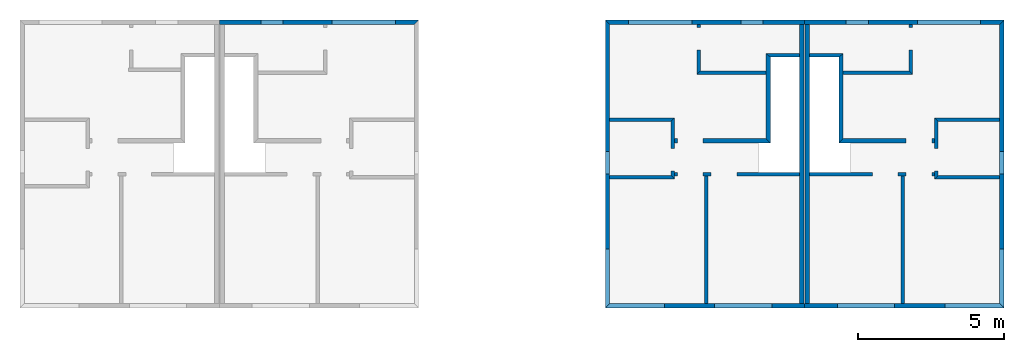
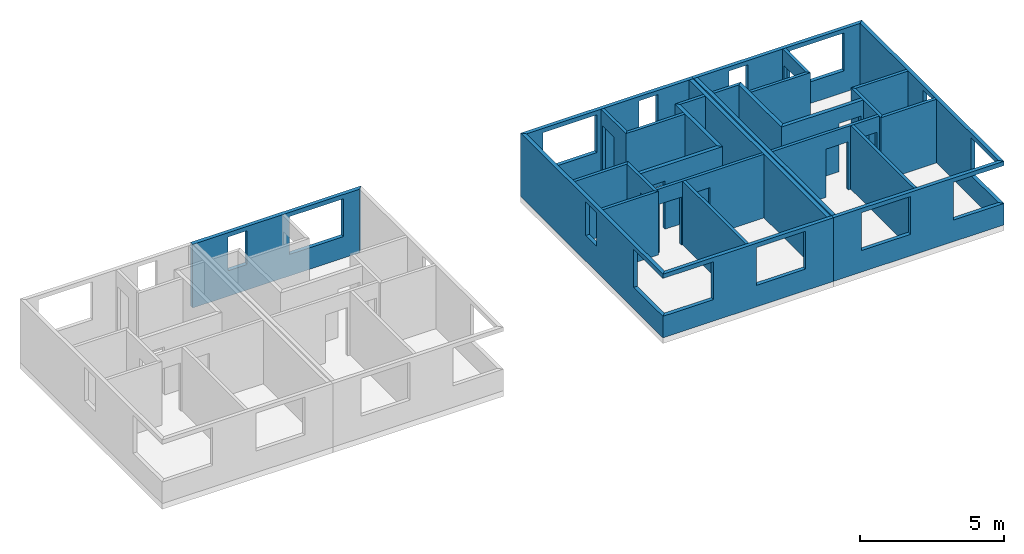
# One storey, part 2 of 2: 29 walls, 24 openings.
"""IFC2X3 building model written with IfcOpenShell, lengths in metres."""

import ifcopenshell
import ifcopenshell.guid

model = None  # the IFC model being written
_history = None  # IfcOwnerHistory: only IFC2X3 demands one
_inside = {}  # id of a spatial element -> (the spatial element, [elements in it])
_under = {}  # id of a project, library or spatial element -> (it, [spatial elements below it])
_declared = {}  # id of a project -> (the project, [libraries it declares])
_typed = {}  # id of a type object -> (the type object, [elements of that type])
_made_of = {}  # id of a material, layer set ... -> (it, [elements and type objects made of it])


def new_model(schema):
    """Start an empty IFC model of exactly this schema.

    Asked for "IFC4X3", IfcOpenShell would pick the latest addendum, in which some entities
    have other attributes; the version numbers below select the first issue.
    IFC2X3 requires an IfcOwnerHistory on every rooted entity: one is made here for all.
    """
    global model, _history
    if schema == "IFC4X3":
        model = ifcopenshell.file(schema_version=(4, 3, 0, 0))
    else:
        model = ifcopenshell.file(schema=schema)
    _inside.clear()
    _under.clear()
    _declared.clear()
    _typed.clear()
    _made_of.clear()
    _history = None
    if model.schema == "IFC2X3":
        org = make("IfcOrganization", Name="unknown")
        user = make(
            "IfcPersonAndOrganization",
            ThePerson=make("IfcPerson", FamilyName="unknown"),
            TheOrganization=org,
        )
        app = make(
            "IfcApplication",
            ApplicationDeveloper=org,
            Version="unknown",
            ApplicationFullName="unknown",
            ApplicationIdentifier="unknown",
        )
        _history = make(
            "IfcOwnerHistory",
            OwningUser=user,
            OwningApplication=app,
            ChangeAction="ADDED",
            CreationDate=0,
        )
    return model


def make(cls, **values):
    """One entity of the class cls with the attributes given. An attribute that is None is left unset."""
    return model.create_entity(
        cls, **{name: value for name, value in values.items() if value is not None}
    )


def entity(cls, *values):
    """Any entity or typed value of the class cls, its attributes in the order of the schema. None: left unset."""
    e = model.create_entity(cls)
    for i, value in enumerate(values):
        if value is not None:
            e[i] = value
    return e


def rooted(cls, **values):
    """An entity with a GlobalId (a new one), such as an element, a storey or a relation."""
    return make(cls, GlobalId=ifcopenshell.guid.new(), OwnerHistory=_history, **values)


def si_unit(unit_type, name, prefix=None):
    """IfcSIUnit, for example si_unit("LENGTHUNIT", "METRE", prefix="MILLI")."""
    return make("IfcSIUnit", UnitType=unit_type, Prefix=prefix, Name=name)


def converted_unit(unit_type, name, factor, base, dimensions=None, offset=None):
    """IfcConversionBasedUnit, such as the inch: factor (a typed value) times the base unit."""
    return make(
        "IfcConversionBasedUnit"
        if offset is None
        else "IfcConversionBasedUnitWithOffset",
        ConversionOffset=offset,
        Dimensions=None
        if dimensions is None
        else entity("IfcDimensionalExponents", *dimensions),
        UnitType=unit_type,
        Name=name,
        ConversionFactor=make(
            "IfcMeasureWithUnit", ValueComponent=factor, UnitComponent=base
        ),
    )


def money_unit(currency):
    """IfcMonetaryUnit."""
    return make("IfcMonetaryUnit", Currency=currency)


def assignment(units):
    """IfcUnitAssignment: the units of a project."""
    return None if units is None else make("IfcUnitAssignment", Units=units)


def point(xyz):
    """IfcCartesianPoint."""
    return None if xyz is None else make("IfcCartesianPoint", Coordinates=xyz)


def direction(xyz):
    """IfcDirection."""
    return None if xyz is None else make("IfcDirection", DirectionRatios=xyz)


def frame(location, z_axis=None, x_axis=None):
    """IfcAxis2Placement3D, a coordinate frame: its origin and axes. An axis left out is left unset."""
    return make(
        "IfcAxis2Placement3D",
        Location=point(location),
        Axis=direction(z_axis),
        RefDirection=direction(x_axis),
    )


def frame_2d(location, x_axis=None):
    """IfcAxis2Placement2D, a coordinate frame in the plane: its origin and x axis."""
    return make(
        "IfcAxis2Placement2D", Location=point(location), RefDirection=direction(x_axis)
    )


def origin_with_axes():
    """The frame at (0, 0, 0) with the z axis (0, 0, 1) and the x axis (1, 0, 0) written out."""
    return frame((0.0, 0.0, 0.0), z_axis=(0.0, 0.0, 1.0), x_axis=(1.0, 0.0, 0.0))


def origin_2d_with_axis():
    """The frame at (0, 0) in the plane with the x axis (1, 0) written out."""
    return frame_2d((0.0, 0.0), x_axis=(1.0, 0.0))


def place(relative_to, where):
    """IfcLocalPlacement: puts the frame where relative to a parent placement (None: the world)."""
    return make(
        "IfcLocalPlacement", PlacementRelTo=relative_to, RelativePlacement=where
    )


def context(
    kind, dimensions, precision=None, world=None, true_north=None, identifier=None
):
    """IfcGeometricRepresentationContext, for example the 3D "Model" context."""
    return make(
        "IfcGeometricRepresentationContext",
        ContextIdentifier=identifier,
        ContextType=kind,
        CoordinateSpaceDimension=dimensions,
        Precision=precision,
        WorldCoordinateSystem=world,
        TrueNorth=true_north,
    )


def subcontext(parent, identifier, kind, view, scale=None):
    """IfcGeometricRepresentationSubContext, for example "Body" below "Model"."""
    return make(
        "IfcGeometricRepresentationSubContext",
        ContextIdentifier=identifier,
        ContextType=kind,
        ParentContext=parent,
        TargetScale=scale,
        TargetView=view,
    )


def project(units=None, contexts=None):
    """IfcProject with its units and contexts."""
    return rooted(
        "IfcProject",
        Name="project",
        RepresentationContexts=contexts,
        UnitsInContext=assignment(units),
    )


def spatial(cls, under=None, at=None, **own):
    """A site, building, storey or space (cls), placed at a placement, below another one or the project."""
    s = rooted(cls, ObjectPlacement=at, **own)
    if under is not None:
        _under.setdefault(under.id(), (under, []))[1].append(s)
    return s


def polyline(points):
    """IfcPolyline through the points."""
    return make("IfcPolyline", Points=[point(p) for p in points])


def profile(cls, at=None, kind="AREA", **sizes):
    """A parametric profile (cls). Its sizes go by their IFC names, for example OverallWidth=200.0."""
    return make(cls, ProfileType=kind, Position=at, **sizes)


def rectangle(**sizes):
    """IfcRectangleProfileDef."""
    return profile("IfcRectangleProfileDef", **sizes)


def outline(outer, holes=None, kind="AREA"):
    """IfcArbitraryClosedProfileDef: a profile drawn as a closed curve; with holes, ...WithVoids."""
    if holes is None:
        return make("IfcArbitraryClosedProfileDef", ProfileType=kind, OuterCurve=outer)
    return make(
        "IfcArbitraryProfileDefWithVoids",
        ProfileType=kind,
        OuterCurve=outer,
        InnerCurves=holes,
    )


def extrude(swept, where, along, depth):
    """IfcExtrudedAreaSolid: the profile swept, set in the frame where, extruded along a direction by depth."""
    return make(
        "IfcExtrudedAreaSolid",
        SweptArea=swept,
        Position=where,
        ExtrudedDirection=direction(along),
        Depth=depth,
    )


def shape(context_of_items, identifier, shape_type, items):
    """IfcShapeRepresentation: the items that make up one representation, for example the "Body"."""
    return make(
        "IfcShapeRepresentation",
        ContextOfItems=context_of_items,
        RepresentationIdentifier=identifier,
        RepresentationType=shape_type,
        Items=items,
    )


def material(Name=None, Category=None):
    """IfcMaterial."""
    return make("IfcMaterial", Name=Name, Category=Category)


def layer(
    of_material, thickness, ventilated=None, Name=None, Category=None, Priority=None
):
    """IfcMaterialLayer: one layer of a wall or slab, of a material (None: an air gap)."""
    return make(
        "IfcMaterialLayer",
        Material=of_material,
        LayerThickness=thickness,
        IsVentilated=ventilated,
        Name=Name,
        Category=Category,
        Priority=Priority,
    )


def layer_set(layers, Name=None):
    """IfcMaterialLayerSet."""
    return make("IfcMaterialLayerSet", MaterialLayers=layers, LayerSetName=Name)


def layer_usage(for_layer_set, set_direction, sense, offset, extent=None):
    """IfcMaterialLayerSetUsage: how a layer set lies in its element."""
    return make(
        "IfcMaterialLayerSetUsage",
        ForLayerSet=for_layer_set,
        LayerSetDirection=set_direction,
        DirectionSense=sense,
        OffsetFromReferenceLine=offset,
        ReferenceExtent=extent,
    )


def made_of(thing, what):
    """Note that an element or type object is made of a material, layer set ...; save() writes the relation."""
    if what is not None:
        _made_of.setdefault(what.id(), (what, []))[1].append(thing)
    return thing


def type_object(cls, material=None, **own):
    """A type object (cls), such as IfcWallType, which elements share."""
    return made_of(rooted(cls, **own), material)


def element(
    cls,
    number,
    at=None,
    inside=None,
    cuts=None,
    type_object=None,
    material=None,
    context=None,
    identifier="Body",
    shape_type=None,
    held_by="IfcProductDefinitionShape",
    body=None,
    shapes=None,
    **own,
):
    """One element of the class cls, such as IfcWall. Its Tag is "e" and its number.

    at: its placement. inside: the storey or other place that contains it. cuts: it is an
    opening in that element (IfcRelVoidsElement). A single representation is given by context,
    identifier, shape_type and body (its items); several are given by shapes. held_by: the class
    of the entity that holds the representations. save() writes the other relations.
    """
    e = rooted(cls, Tag="e%d" % number, ObjectPlacement=at, **own)
    if body is not None:
        shapes = [shape(context, identifier, shape_type, body)]
    if shapes is not None:
        e.Representation = make(held_by, Representations=shapes)
    if inside is not None:
        _inside.setdefault(inside.id(), (inside, []))[1].append(e)
    if cuts is not None:
        rooted(
            "IfcRelVoidsElement", RelatingBuildingElement=cuts, RelatedOpeningElement=e
        )
    if type_object is not None:
        _typed.setdefault(type_object.id(), (type_object, []))[1].append(e)
    return made_of(e, material)


def aggregate(whole, parts):
    """IfcRelAggregates: a whole, such as a stair, and the parts it consists of."""
    return rooted("IfcRelAggregates", RelatingObject=whole, RelatedObjects=parts)


def save(model, path):
    """Write the relations noted so far, then the file.

    IfcRelAggregates (storeys below a building ...), IfcRelContainedInSpatialStructure (elements
    in a storey), IfcRelDefinesByType, IfcRelAssociatesMaterial and IfcRelDeclares: one each for
    every whole, place, type object, material and project.
    """
    for whole, parts in _under.values():
        aggregate(whole, parts)
    for where, things in _inside.values():
        rooted(
            "IfcRelContainedInSpatialStructure",
            RelatedElements=things,
            RelatingStructure=where,
        )
    for kind, things in _typed.values():
        rooted("IfcRelDefinesByType", RelatedObjects=things, RelatingType=kind)
    for what, things in _made_of.values():
        rooted("IfcRelAssociatesMaterial", RelatedObjects=things, RelatingMaterial=what)
    for by, libraries in _declared.values():
        rooted("IfcRelDeclares", RelatingContext=by, RelatedDefinitions=libraries)
    model.write(path)


model = new_model("IFC2X3")

# Units and contexts
model_context = context("Model", 3, precision=1e-05, world=origin_with_axes(), true_north=direction((0.0, 1.0)))
body_context = subcontext(model_context, "Body", "Model", "MODEL_VIEW")
ifc_project = project(units=[si_unit("LENGTHUNIT", "METRE"), si_unit("AREAUNIT", "SQUARE_METRE"), si_unit("VOLUMEUNIT", "CUBIC_METRE"), converted_unit("PLANEANGLEUNIT", "DEGREE", entity("IfcPlaneAngleMeasure", 0.0174532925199), si_unit("PLANEANGLEUNIT", "RADIAN"), dimensions=[0, 0, 0, 0, 0, 0, 0]), si_unit("SOLIDANGLEUNIT", "STERADIAN"), money_unit("EUR"), si_unit("TIMEUNIT", "SECOND"), si_unit("MASSUNIT", "GRAM"), si_unit("THERMODYNAMICTEMPERATUREUNIT", "DEGREE_CELSIUS"), si_unit("LUMINOUSINTENSITYUNIT", "LUMEN")], contexts=[model_context])

# Site, building, storey
site_placement = place(None, origin_with_axes())
site = spatial("IfcSite", under=ifc_project, at=site_placement, Name="Gelände", CompositionType="ELEMENT")
building_placement = place(site_placement, origin_with_axes())
building = spatial("IfcBuilding", under=site, at=building_placement, Name="Gebäude", CompositionType="ELEMENT")
storey_placement = place(building_placement, frame((0.0, 0.0, 2.75), z_axis=(0.0, 0.0, 1.0), x_axis=(1.0, 0.0, 0.0)))
storey = spatial("IfcBuildingStorey", under=building, at=storey_placement, Name="Dachgeschoss", CompositionType="ELEMENT", Elevation=2.75)

# Wall, openings
ifc_material = material(Name="MW, Backstein")
ifc_layer_1 = layer(ifc_material, 0.15, ventilated="UNKNOWN")
ifc_layer_set_1 = layer_set([ifc_layer_1], Name="MW, Backstein 0.15")
ifc_layer_usage_1 = layer_usage(ifc_layer_set_1, "AXIS2", "POSITIVE", 0.0)
wall_type_1 = type_object("IfcWallType", Name="MW, Backstein 150", PredefinedType="NOTDEFINED")
wall_1_placement = place(storey_placement, frame((19.1740175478, 2.25779405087, 0.0), z_axis=(0.0, 0.0, 1.0), x_axis=(-1.0, 0.0, 0.0)))
wall_1 = element("IfcWallStandardCase", 1, at=wall_1_placement, inside=storey, type_object=wall_type_1, material=ifc_layer_usage_1, Name="Aussenwand B", context=body_context, shape_type="SweptSolid", body=[
    extrude(outline(polyline([(0.0, 0.0), (6.82, 0.0), (6.82, 0.15), (0.15, 0.15), (0.0, 0.0)])), origin_with_axes(), (0.0, 0.0, 1.0), 2.69),
])
opening_1_placement = place(wall_1_placement, frame((5.02, 0.0, 1.08), z_axis=(0.0, 0.0, 1.0), x_axis=(1.0, 0.0, 0.0)))
element("IfcOpeningElement", 2, at=opening_1_placement, cuts=wall_1, Name="Fenster B", context=body_context, shape_type="SweptSolid", body=[
    extrude(rectangle(XDim=0.76, YDim=1.43, at=origin_2d_with_axis()), frame((0.0, 0.149999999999, 0.715), z_axis=(0.0, 1.0, 0.0), x_axis=(1.0, 0.0, 0.0)), (0.0, 0.0, -1.0), 0.15),
    extrude(rectangle(XDim=0.76, YDim=1.43, at=origin_2d_with_axis()), frame((0.0, 0.149999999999, 0.715), z_axis=(0.0, -1.0, 0.0), x_axis=(1.0, 0.0, 0.0)), (0.0, 0.0, -1.0), 0.15),
])
opening_2_placement = place(wall_1_placement, frame((1.88, 0.0, 0.91), z_axis=(0.0, 0.0, 1.0), x_axis=(1.0, 0.0, 0.0)))
element("IfcOpeningElement", 3, at=opening_2_placement, cuts=wall_1, Name="Fenster B", context=body_context, shape_type="SweptSolid", body=[
    extrude(rectangle(XDim=2.16, YDim=1.6, at=origin_2d_with_axis()), frame((0.0, 0.15, 0.8), z_axis=(0.0, 1.0, 0.0), x_axis=(1.0, 0.0, 0.0)), (0.0, 0.0, -1.0), 0.15),
    extrude(rectangle(XDim=2.16, YDim=1.6, at=origin_2d_with_axis()), frame((0.0, 0.15, 0.8), z_axis=(0.0, -1.0, 0.0), x_axis=(1.0, 0.0, 0.0)), (0.0, 0.0, -1.0), 0.15),
])

ifc_layer_usage_2 = layer_usage(ifc_layer_set_1, "AXIS2", "POSITIVE", 0.0)
wall_2_placement = place(storey_placement, frame((32.3739410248, -7.59220593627, 0.0), z_axis=(0.0, 0.0, 1.0), x_axis=(1.0, 0.0, 0.0)))
wall_2 = element("IfcWallStandardCase", 4, at=wall_2_placement, inside=storey, type_object=wall_type_1, material=ifc_layer_usage_2, Name="Aussenwand D", context=body_context, shape_type="SweptSolid", body=[
    extrude(outline(polyline([(0.0, 0.0), (6.82, 0.0), (6.67, 0.15), (0.0, 0.15), (0.0, 0.0)])), origin_with_axes(), (0.0, 0.0, 1.0), 2.69),
])
opening_3_placement = place(wall_2_placement, frame((2.1, 0.0, 0.91), z_axis=(0.0, 0.0, 1.0), x_axis=(1.0, 0.0, 0.0)))
element("IfcOpeningElement", 5, at=opening_3_placement, cuts=wall_2, Name="Fenster D", context=body_context, shape_type="SweptSolid", body=[
    extrude(rectangle(XDim=1.96, YDim=1.6, at=origin_2d_with_axis()), frame((0.0, 0.15, 0.8), z_axis=(0.0, 1.0, 0.0), x_axis=(1.0, 0.0, 0.0)), (0.0, 0.0, -1.0), 0.15),
    extrude(rectangle(XDim=1.96, YDim=1.6, at=origin_2d_with_axis()), frame((0.0, 0.15, 0.8), z_axis=(0.0, -1.0, 0.0), x_axis=(1.0, 0.0, 0.0)), (0.0, 0.0, -1.0), 0.15),
])
opening_4_placement = place(wall_2_placement, frame((5.81, 0.0, 0.91), z_axis=(0.0, 0.0, 1.0), x_axis=(1.0, 0.0, 0.0)))
element("IfcOpeningElement", 6, at=opening_4_placement, cuts=wall_2, Name="Eckfenster-003", context=body_context, shape_type="SweptSolid", body=[
    extrude(rectangle(XDim=2.02, YDim=1.6, at=origin_2d_with_axis()), frame((0.0, 0.0, 0.8), z_axis=(0.0, 1.0, 0.0), x_axis=(1.0, 0.0, 0.0)), (0.0, 0.0, -1.0), 0.15),
    extrude(rectangle(XDim=2.02, YDim=1.6, at=origin_2d_with_axis()), frame((0.0, 0.0, 0.8), z_axis=(0.0, -1.0, 0.0), x_axis=(1.0, 0.0, 0.0)), (0.0, 0.0, -1.0), 0.15),
])

ifc_layer_usage_3 = layer_usage(ifc_layer_set_1, "AXIS2", "POSITIVE", 0.0)
wall_3_placement = place(storey_placement, frame((39.1939410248, -7.59220593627, 0.0), z_axis=(0.0, 0.0, 1.0), x_axis=(0.0, 1.0, 0.0)))
wall_3 = element("IfcWallStandardCase", 7, at=wall_3_placement, inside=storey, type_object=wall_type_1, material=ifc_layer_usage_3, Name="Aussenwand D", context=body_context, shape_type="SweptSolid", body=[
    extrude(outline(polyline([(0.0, 0.0), (9.84999998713, 0.0), (9.69999998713, 0.15), (0.15, 0.15), (0.0, 0.0)])), origin_with_axes(), (0.0, 0.0, 1.0), 2.69),
])
opening_5_placement = place(wall_3_placement, frame((4.96999998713, 0.0, 1.08), z_axis=(0.0, 0.0, 1.0), x_axis=(1.0, 0.0, 0.0)))
element("IfcOpeningElement", 8, at=opening_5_placement, cuts=wall_3, Name="Fenster D", context=body_context, shape_type="SweptSolid", body=[
    extrude(rectangle(XDim=0.76, YDim=1.43, at=origin_2d_with_axis()), frame((0.0, 0.15, 0.715), z_axis=(0.0, 1.0, 0.0), x_axis=(1.0, 0.0, 0.0)), (0.0, 0.0, -1.0), 0.15),
    extrude(rectangle(XDim=0.76, YDim=1.43, at=origin_2d_with_axis()), frame((0.0, 0.15, 0.715), z_axis=(0.0, -1.0, 0.0), x_axis=(1.0, 0.0, 0.0)), (0.0, 0.0, -1.0), 0.15),
])
opening_6_placement = place(wall_3_placement, frame((1.01, 0.0, 0.91), z_axis=(0.0, 0.0, 1.0), x_axis=(1.0, 0.0, 0.0)))
element("IfcOpeningElement", 9, at=opening_6_placement, cuts=wall_3, Name="Eckfenster-002", context=body_context, shape_type="SweptSolid", body=[
    extrude(rectangle(XDim=2.02, YDim=1.6, at=origin_2d_with_axis()), frame((0.0, 0.0, 0.8), z_axis=(0.0, 1.0, 0.0), x_axis=(1.0, 0.0, 0.0)), (0.0, 0.0, -1.0), 0.15),
    extrude(rectangle(XDim=2.02, YDim=1.6, at=origin_2d_with_axis()), frame((0.0, 0.0, 0.8), z_axis=(0.0, -1.0, 0.0), x_axis=(1.0, 0.0, 0.0)), (0.0, 0.0, -1.0), 0.15),
])

ifc_layer_usage_4 = layer_usage(ifc_layer_set_1, "AXIS2", "POSITIVE", 0.0)
wall_4_placement = place(storey_placement, frame((39.1939410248, 2.25779405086, 0.0), z_axis=(0.0, 0.0, 1.0), x_axis=(-1.0, 0.0, 0.0)))
wall_4 = element("IfcWallStandardCase", 10, at=wall_4_placement, inside=storey, type_object=wall_type_1, material=ifc_layer_usage_4, Name="Aussenwand D", context=body_context, shape_type="SweptSolid", body=[
    extrude(outline(polyline([(0.0, 0.0), (6.82, 0.0), (6.82, 0.15), (0.15, 0.15), (0.0, 0.0)])), origin_with_axes(), (0.0, 0.0, 1.0), 2.69),
])
opening_7_placement = place(wall_4_placement, frame((5.02, 0.0, 1.08), z_axis=(0.0, 0.0, 1.0), x_axis=(1.0, 0.0, 0.0)))
element("IfcOpeningElement", 11, at=opening_7_placement, cuts=wall_4, Name="Fenster D", context=body_context, shape_type="SweptSolid", body=[
    extrude(rectangle(XDim=0.76, YDim=1.43, at=origin_2d_with_axis()), frame((0.0, 0.15, 0.715), z_axis=(0.0, 1.0, 0.0), x_axis=(1.0, 0.0, 0.0)), (0.0, 0.0, -1.0), 0.15),
    extrude(rectangle(XDim=0.76, YDim=1.43, at=origin_2d_with_axis()), frame((0.0, 0.15, 0.715), z_axis=(0.0, -1.0, 0.0), x_axis=(1.0, 0.0, 0.0)), (0.0, 0.0, -1.0), 0.15),
])
opening_8_placement = place(wall_4_placement, frame((1.88, 0.0, 0.91), z_axis=(0.0, 0.0, 1.0), x_axis=(1.0, 0.0, 0.0)))
element("IfcOpeningElement", 12, at=opening_8_placement, cuts=wall_4, Name="Fenster D", context=body_context, shape_type="SweptSolid", body=[
    extrude(rectangle(XDim=2.16, YDim=1.6, at=origin_2d_with_axis()), frame((0.0, 0.15, 0.8), z_axis=(0.0, 1.0, 0.0), x_axis=(1.0, 0.0, 0.0)), (0.0, 0.0, -1.0), 0.15),
    extrude(rectangle(XDim=2.16, YDim=1.6, at=origin_2d_with_axis()), frame((0.0, 0.15, 0.8), z_axis=(0.0, -1.0, 0.0), x_axis=(1.0, 0.0, 0.0)), (0.0, 0.0, -1.0), 0.15),
])

# Wall
ifc_layer_usage_5 = layer_usage(ifc_layer_set_1, "AXIS2", "NEGATIVE", 0.0)
wall_5_placement = place(storey_placement, frame((32.3939410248, -7.59220593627, 0.0), z_axis=(0.0, 0.0, 1.0), x_axis=(0.0, 1.0, 0.0)))
element("IfcWallStandardCase", 13, at=wall_5_placement, inside=storey, type_object=wall_type_1, material=ifc_layer_usage_5, Name="Zwischenwand D", context=body_context, shape_type="SweptSolid", body=[
    extrude(outline(polyline([(0.15, -0.15), (9.69999998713, -0.15), (9.69999998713, 0.0), (0.15, 0.0), (0.15, -0.15)])), origin_with_axes(), (0.0, 0.0, 1.0), 2.69),
])

# Wall, opening
ifc_layer_usage_6 = layer_usage(ifc_layer_set_1, "AXIS2", "NEGATIVE", 0.0)
wall_6_placement = place(storey_placement, frame((36.8239410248, -1.95220593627, 0.0), z_axis=(0.0, 0.0, 1.0), x_axis=(-1.0, 0.0, 0.0)))
wall_6 = element("IfcWallStandardCase", 14, at=wall_6_placement, inside=storey, type_object=wall_type_1, material=ifc_layer_usage_6, Name="Innenwand D", context=body_context, shape_type="SweptSolid", body=[
    extrude(outline(polyline([(0.0, -0.15), (3.13, -0.15), (3.28, 0.0), (0.0, 0.0), (0.0, -0.15)])), origin_with_axes(), (0.0, 0.0, 1.0), 2.69),
])
opening_9_placement = place(wall_6_placement, frame((0.54, 0.0, 0.0), z_axis=(0.0, 0.0, 1.0), x_axis=(1.0, 0.0, 0.0)))
element("IfcOpeningElement", 15, at=opening_9_placement, cuts=wall_6, Name="Tür D", context=body_context, shape_type="SweptSolid", body=[
    extrude(rectangle(XDim=0.88, YDim=2.04, at=origin_2d_with_axis()), frame((0.0, -0.15, 1.02), z_axis=(0.0, 1.0, 0.0), x_axis=(1.0, 0.0, 0.0)), (0.0, 0.0, -1.0), 0.15),
    extrude(rectangle(XDim=0.88, YDim=2.04, at=origin_2d_with_axis()), frame((0.0, -0.15, 1.02), z_axis=(0.0, -1.0, 0.0), x_axis=(1.0, 0.0, 0.0)), (0.0, 0.0, -1.0), 0.15),
])

# Wall
ifc_layer_usage_7 = layer_usage(ifc_layer_set_1, "AXIS2", "NEGATIVE", 0.0)
wall_7_placement = place(storey_placement, frame((33.5439410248, -1.95220593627, 0.0), z_axis=(0.0, 0.0, 1.0), x_axis=(0.0, 1.0, 0.0)))
element("IfcWallStandardCase", 16, at=wall_7_placement, inside=storey, type_object=wall_type_1, material=ifc_layer_usage_7, Name="Innenwand D", context=body_context, shape_type="SweptSolid", body=[
    extrude(outline(polyline([(0.15, -0.15), (3.06, -0.15), (2.94, 0.0), (0.0, 0.0), (0.15, -0.15)])), origin_with_axes(), (0.0, 0.0, 1.0), 2.69),
])

# Wall, openings
ifc_layer_usage_8 = layer_usage(ifc_layer_set_1, "AXIS2", "NEGATIVE", 0.0)
wall_8_placement = place(storey_placement, frame((32.3739410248, -7.59220593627, 0.0), z_axis=(0.0, 0.0, 1.0), x_axis=(-1.0, 0.0, 0.0)))
wall_8 = element("IfcWallStandardCase", 17, at=wall_8_placement, inside=storey, type_object=wall_type_1, material=ifc_layer_usage_8, Name="Aussenwand C", context=body_context, shape_type="SweptSolid", body=[
    extrude(outline(polyline([(0.0, -0.15), (6.67, -0.15), (6.82, 0.0), (0.0, 0.0), (0.0, -0.15)])), origin_with_axes(), (0.0, 0.0, 1.0), 2.69),
])
opening_10_placement = place(wall_8_placement, frame((2.1, 0.0, 0.91), z_axis=(0.0, 0.0, 1.0), x_axis=(1.0, 0.0, 0.0)))
element("IfcOpeningElement", 18, at=opening_10_placement, cuts=wall_8, Name="Fenster C", context=body_context, shape_type="SweptSolid", body=[
    extrude(rectangle(XDim=1.96, YDim=1.6, at=origin_2d_with_axis()), frame((0.0, -0.15, 0.8), z_axis=(0.0, -1.0, 0.0), x_axis=(1.0, 0.0, 0.0)), (0.0, 0.0, -1.0), 0.15),
    extrude(rectangle(XDim=1.96, YDim=1.6, at=origin_2d_with_axis()), frame((0.0, -0.15, 0.8), z_axis=(0.0, 1.0, 0.0), x_axis=(1.0, 0.0, 0.0)), (0.0, 0.0, -1.0), 0.15),
])
opening_11_placement = place(wall_8_placement, frame((5.81, 0.0, 0.91), z_axis=(0.0, 0.0, 1.0), x_axis=(1.0, 0.0, 0.0)))
element("IfcOpeningElement", 19, at=opening_11_placement, cuts=wall_8, Name="Eckfenster-003", context=body_context, shape_type="SweptSolid", body=[
    extrude(rectangle(XDim=2.02, YDim=1.6, at=origin_2d_with_axis()), frame((0.0, 0.0, 0.8), z_axis=(0.0, -1.0, 0.0), x_axis=(1.0, 0.0, 0.0)), (0.0, 0.0, -1.0), 0.15),
    extrude(rectangle(XDim=2.02, YDim=1.6, at=origin_2d_with_axis()), frame((0.0, 0.0, 0.8), z_axis=(0.0, 1.0, 0.0), x_axis=(1.0, 0.0, 0.0)), (0.0, 0.0, -1.0), 0.15),
])

ifc_layer_usage_9 = layer_usage(ifc_layer_set_1, "AXIS2", "NEGATIVE", 0.0)
wall_9_placement = place(storey_placement, frame((25.5539410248, -7.59220593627, 0.0), z_axis=(0.0, 0.0, 1.0), x_axis=(0.0, 1.0, 0.0)))
wall_9 = element("IfcWallStandardCase", 20, at=wall_9_placement, inside=storey, type_object=wall_type_1, material=ifc_layer_usage_9, Name="Aussenwand C", context=body_context, shape_type="SweptSolid", body=[
    extrude(outline(polyline([(0.15, -0.15), (9.69999998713, -0.15), (9.84999998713, 0.0), (0.0, 0.0), (0.15, -0.15)])), origin_with_axes(), (0.0, 0.0, 1.0), 2.69),
])
opening_12_placement = place(wall_9_placement, frame((4.96999998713, 0.0, 1.08), z_axis=(0.0, 0.0, 1.0), x_axis=(1.0, 0.0, 0.0)))
element("IfcOpeningElement", 21, at=opening_12_placement, cuts=wall_9, Name="Fenster C", context=body_context, shape_type="SweptSolid", body=[
    extrude(rectangle(XDim=0.76, YDim=1.43, at=origin_2d_with_axis()), frame((0.0, -0.15, 0.715), z_axis=(0.0, -1.0, 0.0), x_axis=(1.0, 0.0, 0.0)), (0.0, 0.0, -1.0), 0.15),
    extrude(rectangle(XDim=0.76, YDim=1.43, at=origin_2d_with_axis()), frame((0.0, -0.15, 0.715), z_axis=(0.0, 1.0, 0.0), x_axis=(1.0, 0.0, 0.0)), (0.0, 0.0, -1.0), 0.15),
])
opening_13_placement = place(wall_9_placement, frame((1.01, 0.0, 0.91), z_axis=(0.0, 0.0, 1.0), x_axis=(1.0, 0.0, 0.0)))
element("IfcOpeningElement", 22, at=opening_13_placement, cuts=wall_9, Name="Eckfenster-002", context=body_context, shape_type="SweptSolid", body=[
    extrude(rectangle(XDim=2.02, YDim=1.6, at=origin_2d_with_axis()), frame((0.0, 0.0, 0.8), z_axis=(0.0, -1.0, 0.0), x_axis=(1.0, 0.0, 0.0)), (0.0, 0.0, -1.0), 0.15),
    extrude(rectangle(XDim=2.02, YDim=1.6, at=origin_2d_with_axis()), frame((0.0, 0.0, 0.8), z_axis=(0.0, 1.0, 0.0), x_axis=(1.0, 0.0, 0.0)), (0.0, 0.0, -1.0), 0.15),
])

# Wall
ifc_layer_usage_10 = layer_usage(ifc_layer_set_1, "AXIS2", "POSITIVE", 0.0)
wall_10_placement = place(storey_placement, frame((32.3539410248, -7.59220593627, 0.0), z_axis=(0.0, 0.0, 1.0), x_axis=(0.0, 1.0, 0.0)))
element("IfcWallStandardCase", 23, at=wall_10_placement, inside=storey, type_object=wall_type_1, material=ifc_layer_usage_10, Name="Zwischenwand C", context=body_context, shape_type="SweptSolid", body=[
    extrude(outline(polyline([(0.15, 0.0), (9.69999998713, 0.0), (9.69999998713, 0.15), (0.15, 0.15), (0.15, 0.0)])), origin_with_axes(), (0.0, 0.0, 1.0), 2.69),
])

# Wall, opening
ifc_layer_usage_11 = layer_usage(ifc_layer_set_1, "AXIS2", "POSITIVE", 0.0)
wall_11_placement = place(storey_placement, frame((27.9239410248, -1.95220593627, 0.0), z_axis=(0.0, 0.0, 1.0), x_axis=(1.0, 0.0, 0.0)))
wall_11 = element("IfcWallStandardCase", 24, at=wall_11_placement, inside=storey, type_object=wall_type_1, material=ifc_layer_usage_11, Name="Innenwand C", context=body_context, shape_type="SweptSolid", body=[
    extrude(outline(polyline([(0.0, 0.0), (3.28, 0.0), (3.13, 0.15), (0.0, 0.15), (0.0, 0.0)])), origin_with_axes(), (0.0, 0.0, 1.0), 2.69),
])
opening_14_placement = place(wall_11_placement, frame((0.54, 0.0, 0.0), z_axis=(0.0, 0.0, 1.0), x_axis=(1.0, 0.0, 0.0)))
element("IfcOpeningElement", 25, at=opening_14_placement, cuts=wall_11, Name="Tür C", context=body_context, shape_type="SweptSolid", body=[
    extrude(rectangle(XDim=0.88, YDim=2.04, at=origin_2d_with_axis()), frame((0.0, 0.15, 1.02), z_axis=(0.0, -1.0, 0.0), x_axis=(1.0, 0.0, 0.0)), (0.0, 0.0, -1.0), 0.15),
    extrude(rectangle(XDim=0.88, YDim=2.04, at=origin_2d_with_axis()), frame((0.0, 0.15, 1.02), z_axis=(0.0, 1.0, 0.0), x_axis=(1.0, 0.0, 0.0)), (0.0, 0.0, -1.0), 0.15),
])

# Wall
ifc_layer_usage_12 = layer_usage(ifc_layer_set_1, "AXIS2", "POSITIVE", 0.0)
wall_12_placement = place(storey_placement, frame((31.2039410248, -1.95220593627, 0.0), z_axis=(0.0, 0.0, 1.0), x_axis=(0.0, 1.0, 0.0)))
element("IfcWallStandardCase", 26, at=wall_12_placement, inside=storey, type_object=wall_type_1, material=ifc_layer_usage_12, Name="Innenwand C", context=body_context, shape_type="SweptSolid", body=[
    extrude(outline(polyline([(0.0, 0.0), (2.94, 0.0), (3.06, 0.15), (0.15, 0.15), (0.0, 0.0)])), origin_with_axes(), (0.0, 0.0, 1.0), 2.69),
])

# Wall, openings
ifc_layer_usage_13 = layer_usage(ifc_layer_set_1, "AXIS2", "NEGATIVE", 0.0)
wall_13_placement = place(storey_placement, frame((25.5539410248, 2.25779405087, 0.0), z_axis=(0.0, 0.0, 1.0), x_axis=(1.0, 0.0, 0.0)))
wall_13 = element("IfcWallStandardCase", 27, at=wall_13_placement, inside=storey, type_object=wall_type_1, material=ifc_layer_usage_13, Name="Aussenwand C", context=body_context, shape_type="SweptSolid", body=[
    extrude(outline(polyline([(0.15, -0.15), (6.82, -0.15), (6.82, 0.0), (0.0, 0.0), (0.15, -0.15)])), origin_with_axes(), (0.0, 0.0, 1.0), 2.69),
])
opening_15_placement = place(wall_13_placement, frame((5.02, 0.0, 1.08), z_axis=(0.0, 0.0, 1.0), x_axis=(1.0, 0.0, 0.0)))
element("IfcOpeningElement", 28, at=opening_15_placement, cuts=wall_13, Name="Fenster C", context=body_context, shape_type="SweptSolid", body=[
    extrude(rectangle(XDim=0.76, YDim=1.43, at=origin_2d_with_axis()), frame((0.0, -0.149999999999, 0.715), z_axis=(0.0, -1.0, 0.0), x_axis=(1.0, 0.0, 0.0)), (0.0, 0.0, -1.0), 0.15),
    extrude(rectangle(XDim=0.76, YDim=1.43, at=origin_2d_with_axis()), frame((0.0, -0.149999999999, 0.715), z_axis=(0.0, 1.0, 0.0), x_axis=(1.0, 0.0, 0.0)), (0.0, 0.0, -1.0), 0.15),
])
opening_16_placement = place(wall_13_placement, frame((1.88, 0.0, 0.91), z_axis=(0.0, 0.0, 1.0), x_axis=(1.0, 0.0, 0.0)))
element("IfcOpeningElement", 29, at=opening_16_placement, cuts=wall_13, Name="Fenster C", context=body_context, shape_type="SweptSolid", body=[
    extrude(rectangle(XDim=2.16, YDim=1.6, at=origin_2d_with_axis()), frame((0.0, -0.15, 0.8), z_axis=(0.0, -1.0, 0.0), x_axis=(1.0, 0.0, 0.0)), (0.0, 0.0, -1.0), 0.15),
    extrude(rectangle(XDim=2.16, YDim=1.6, at=origin_2d_with_axis()), frame((0.0, -0.15, 0.8), z_axis=(0.0, 1.0, 0.0), x_axis=(1.0, 0.0, 0.0)), (0.0, 0.0, -1.0), 0.15),
])

ifc_layer_2 = layer(ifc_material, 0.12, ventilated="UNKNOWN")
ifc_layer_set_2 = layer_set([ifc_layer_2], Name="MW, Backstein 0.12")
ifc_layer_usage_14 = layer_usage(ifc_layer_set_2, "AXIS2", "NEGATIVE", 0.0)
wall_type_2 = type_object("IfcWallType", Name="MW, Backstein 120", PredefinedType="NOTDEFINED")
wall_14_placement = place(storey_placement, frame((32.3939410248, -2.95220593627, 0.0), z_axis=(0.0, 0.0, 1.0), x_axis=(1.0, 0.0, 0.0)))
wall_14 = element("IfcWallStandardCase", 30, at=wall_14_placement, inside=storey, type_object=wall_type_2, material=ifc_layer_usage_14, Name="Innenwand D", context=body_context, shape_type="SweptSolid", body=[
    extrude(outline(polyline([(0.15, -0.12), (4.43, -0.12), (4.43, 0.0), (0.15, 0.0), (0.15, -0.12)])), origin_with_axes(), (0.0, 0.0, 1.0), 2.69),
])
opening_17_placement = place(wall_14_placement, frame((3.89, 0.0, 0.0), z_axis=(0.0, 0.0, 1.0), x_axis=(1.0, 0.0, 0.0)))
element("IfcOpeningElement", 31, at=opening_17_placement, cuts=wall_14, Name="Tür D", context=body_context, shape_type="SweptSolid", body=[
    extrude(rectangle(XDim=0.88, YDim=2.04, at=origin_2d_with_axis()), frame((0.0, -0.12, 1.02), z_axis=(0.0, 1.0, 0.0), x_axis=(1.0, 0.0, 0.0)), (0.0, 0.0, -1.0), 0.12),
    extrude(rectangle(XDim=0.88, YDim=2.04, at=origin_2d_with_axis()), frame((0.0, -0.12, 1.02), z_axis=(0.0, -1.0, 0.0), x_axis=(1.0, 0.0, 0.0)), (0.0, 0.0, -1.0), 0.12),
])
opening_18_placement = place(wall_14_placement, frame((2.74, 0.0, 0.0), z_axis=(0.0, 0.0, 1.0), x_axis=(1.0, 0.0, 0.0)))
element("IfcOpeningElement", 32, at=opening_18_placement, cuts=wall_14, Name="Tür D", context=body_context, shape_type="SweptSolid", body=[
    extrude(rectangle(XDim=0.88, YDim=2.04, at=origin_2d_with_axis()), frame((0.0, -0.12, 1.02), z_axis=(0.0, 1.0, 0.0), x_axis=(1.0, 0.0, 0.0)), (0.0, 0.0, -1.0), 0.12),
    extrude(rectangle(XDim=0.88, YDim=2.04, at=origin_2d_with_axis()), frame((0.0, -0.12, 1.02), z_axis=(0.0, -1.0, 0.0), x_axis=(1.0, 0.0, 0.0)), (0.0, 0.0, -1.0), 0.12),
])

# Walls
ifc_layer_usage_15 = layer_usage(ifc_layer_set_2, "AXIS2", "NEGATIVE", 0.0)
wall_15_placement = place(storey_placement, frame((35.6739410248, -7.59220593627, 0.0), z_axis=(0.0, 0.0, 1.0), x_axis=(0.0, 1.0, 0.0)))
element("IfcWallStandardCase", 33, at=wall_15_placement, inside=storey, type_object=wall_type_2, material=ifc_layer_usage_15, Name="Innenwand D", context=body_context, shape_type="SweptSolid", body=[
    extrude(outline(polyline([(0.15, -0.12), (4.52, -0.12), (4.52, 0.0), (0.15, 0.0), (0.15, -0.12)])), origin_with_axes(), (0.0, 0.0, 1.0), 2.69),
])
ifc_layer_usage_16 = layer_usage(ifc_layer_set_2, "AXIS2", "NEGATIVE", 0.0)
wall_16_placement = place(storey_placement, frame((39.1939410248, -3.18220593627, 0.0), z_axis=(0.0, 0.0, 1.0), x_axis=(-1.0, 0.0, 0.0)))
element("IfcWallStandardCase", 34, at=wall_16_placement, inside=storey, type_object=wall_type_2, material=ifc_layer_usage_16, Name="Innenwand D", context=body_context, shape_type="SweptSolid", body=[
    extrude(outline(polyline([(0.15, -0.12), (2.25, -0.12), (2.37, 0.0), (0.15, 0.0), (0.15, -0.12)])), origin_with_axes(), (0.0, 0.0, 1.0), 2.69),
])

# Wall, opening
ifc_layer_usage_17 = layer_usage(ifc_layer_set_2, "AXIS2", "NEGATIVE", 0.0)
wall_17_placement = place(storey_placement, frame((36.8239410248, -3.18220593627, 0.0), z_axis=(0.0, 0.0, 1.0), x_axis=(0.0, 1.0, 0.0)))
wall_17 = element("IfcWallStandardCase", 35, at=wall_17_placement, inside=storey, type_object=wall_type_2, material=ifc_layer_usage_17, Name="Innenwand D", context=body_context, shape_type="SweptSolid", body=[
    extrude(outline(polyline([(0.12, -0.12), (1.97, -0.12), (2.09, 0.0), (0.0, 0.0), (0.12, -0.12)])), origin_with_axes(), (0.0, 0.0, 1.0), 2.69),
])
opening_19_placement = place(wall_17_placement, frame((0.66, 0.0, 0.0), z_axis=(0.0, 0.0, 1.0), x_axis=(1.0, 0.0, 0.0)))
element("IfcOpeningElement", 36, at=opening_19_placement, cuts=wall_17, Name="Tür D", context=body_context, shape_type="SweptSolid", body=[
    extrude(rectangle(XDim=0.78, YDim=2.04, at=origin_2d_with_axis()), frame((0.0, 0.0, 1.02), z_axis=(0.0, -1.0, 0.0), x_axis=(1.0, 0.0, 0.0)), (0.0, 0.0, -1.0), 0.12),
    extrude(rectangle(XDim=0.78, YDim=2.04, at=origin_2d_with_axis()), frame((0.0, 0.0, 1.02), z_axis=(0.0, 1.0, 0.0), x_axis=(1.0, 0.0, 0.0)), (0.0, 0.0, -1.0), 0.12),
])

# Walls
ifc_layer_usage_18 = layer_usage(ifc_layer_set_2, "AXIS2", "NEGATIVE", 0.0)
wall_18_placement = place(storey_placement, frame((36.8239410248, -1.09220593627, 0.0), z_axis=(0.0, 0.0, 1.0), x_axis=(1.0, 0.0, 0.0)))
element("IfcWallStandardCase", 37, at=wall_18_placement, inside=storey, type_object=wall_type_2, material=ifc_layer_usage_18, Name="Innenwand D", context=body_context, shape_type="SweptSolid", body=[
    extrude(outline(polyline([(0.12, -0.12), (2.22, -0.12), (2.22, 0.0), (0.0, 0.0), (0.12, -0.12)])), origin_with_axes(), (0.0, 0.0, 1.0), 2.69),
])
ifc_layer_usage_19 = layer_usage(ifc_layer_set_2, "AXIS2", "NEGATIVE", 0.0)
wall_19_placement = place(storey_placement, frame((32.3939410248, 1.10779406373, 0.0), z_axis=(0.0, 0.0, 1.0), x_axis=(1.0, 0.0, 0.0)))
element("IfcWallStandardCase", 38, at=wall_19_placement, inside=storey, type_object=wall_type_2, material=ifc_layer_usage_19, Name="Innenwand D", context=body_context, shape_type="SweptSolid", body=[
    extrude(outline(polyline([(0.15, -0.12), (1.15, -0.12), (1.3, 0.0), (0.15, 0.0), (0.15, -0.12)])), origin_with_axes(), (0.0, 0.0, 1.0), 2.69),
])
ifc_layer_usage_20 = layer_usage(ifc_layer_set_2, "AXIS2", "POSITIVE", 0.0)
wall_20_placement = place(storey_placement, frame((33.5439410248, 0.397794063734, 0.0), z_axis=(0.0, 0.0, 1.0), x_axis=(1.0, 0.0, 0.0)))
element("IfcWallStandardCase", 39, at=wall_20_placement, inside=storey, type_object=wall_type_2, material=ifc_layer_usage_20, Name="Innenwand D", context=body_context, shape_type="SweptSolid", body=[
    extrude(outline(polyline([(0.15, 0.0), (2.52, 0.0), (2.4, 0.12), (0.15, 0.12), (0.15, 0.0)])), origin_with_axes(), (0.0, 0.0, 1.0), 2.69),
])

# Wall, opening
ifc_layer_usage_21 = layer_usage(ifc_layer_set_2, "AXIS2", "POSITIVE", 0.0)
wall_21_placement = place(storey_placement, frame((35.9439410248, 2.25779405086, 0.0), z_axis=(0.0, 0.0, 1.0), x_axis=(0.0, -1.0, 0.0)))
wall_21 = element("IfcWallStandardCase", 40, at=wall_21_placement, inside=storey, type_object=wall_type_2, material=ifc_layer_usage_21, Name="Innenwand D", context=body_context, shape_type="SweptSolid", body=[
    extrude(outline(polyline([(0.15, 0.0), (1.73999998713, 0.0), (1.85999998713, 0.12), (0.15, 0.12), (0.15, 0.0)])), origin_with_axes(), (0.0, 0.0, 1.0), 2.69),
])
opening_20_placement = place(wall_21_placement, frame((0.64, 0.0, 0.0), z_axis=(0.0, 0.0, 1.0), x_axis=(1.0, 0.0, 0.0)))
element("IfcOpeningElement", 41, at=opening_20_placement, cuts=wall_21, Name="Tür D", context=body_context, shape_type="SweptSolid", body=[
    extrude(rectangle(XDim=0.78, YDim=2.04, at=origin_2d_with_axis()), frame((0.0, 0.0, 1.02), z_axis=(0.0, 1.0, 0.0), x_axis=(1.0, 0.0, 0.0)), (0.0, 0.0, -1.0), 0.12),
    extrude(rectangle(XDim=0.78, YDim=2.04, at=origin_2d_with_axis()), frame((0.0, 0.0, 1.02), z_axis=(0.0, -1.0, 0.0), x_axis=(1.0, 0.0, 0.0)), (0.0, 0.0, -1.0), 0.12),
])

# Wall, openings
ifc_layer_usage_22 = layer_usage(ifc_layer_set_2, "AXIS2", "POSITIVE", 0.0)
wall_22_placement = place(storey_placement, frame((32.3539410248, -2.95220593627, 0.0), z_axis=(0.0, 0.0, 1.0), x_axis=(-1.0, 0.0, 0.0)))
wall_22 = element("IfcWallStandardCase", 42, at=wall_22_placement, inside=storey, type_object=wall_type_2, material=ifc_layer_usage_22, Name="Innenwand C", context=body_context, shape_type="SweptSolid", body=[
    extrude(outline(polyline([(0.15, 0.0), (4.43, 0.0), (4.43, 0.12), (0.15, 0.12), (0.15, 0.0)])), origin_with_axes(), (0.0, 0.0, 1.0), 2.69),
])
opening_21_placement = place(wall_22_placement, frame((3.89, 0.0, 0.0), z_axis=(0.0, 0.0, 1.0), x_axis=(1.0, 0.0, 0.0)))
element("IfcOpeningElement", 43, at=opening_21_placement, cuts=wall_22, Name="Tür C", context=body_context, shape_type="SweptSolid", body=[
    extrude(rectangle(XDim=0.88, YDim=2.04, at=origin_2d_with_axis()), frame((0.0, 0.12, 1.02), z_axis=(0.0, -1.0, 0.0), x_axis=(1.0, 0.0, 0.0)), (0.0, 0.0, -1.0), 0.12),
    extrude(rectangle(XDim=0.88, YDim=2.04, at=origin_2d_with_axis()), frame((0.0, 0.12, 1.02), z_axis=(0.0, 1.0, 0.0), x_axis=(1.0, 0.0, 0.0)), (0.0, 0.0, -1.0), 0.12),
])
opening_22_placement = place(wall_22_placement, frame((2.74, 0.0, 0.0), z_axis=(0.0, 0.0, 1.0), x_axis=(1.0, 0.0, 0.0)))
element("IfcOpeningElement", 44, at=opening_22_placement, cuts=wall_22, Name="Tür C", context=body_context, shape_type="SweptSolid", body=[
    extrude(rectangle(XDim=0.88, YDim=2.04, at=origin_2d_with_axis()), frame((0.0, 0.12, 1.02), z_axis=(0.0, -1.0, 0.0), x_axis=(1.0, 0.0, 0.0)), (0.0, 0.0, -1.0), 0.12),
    extrude(rectangle(XDim=0.88, YDim=2.04, at=origin_2d_with_axis()), frame((0.0, 0.12, 1.02), z_axis=(0.0, 1.0, 0.0), x_axis=(1.0, 0.0, 0.0)), (0.0, 0.0, -1.0), 0.12),
])

# Walls
ifc_layer_usage_23 = layer_usage(ifc_layer_set_2, "AXIS2", "POSITIVE", 0.0)
wall_23_placement = place(storey_placement, frame((29.0739410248, -7.59220593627, 0.0), z_axis=(0.0, 0.0, 1.0), x_axis=(0.0, 1.0, 0.0)))
element("IfcWallStandardCase", 45, at=wall_23_placement, inside=storey, type_object=wall_type_2, material=ifc_layer_usage_23, Name="Innenwand C", context=body_context, shape_type="SweptSolid", body=[
    extrude(outline(polyline([(0.15, 0.0), (4.52, 0.0), (4.52, 0.12), (0.15, 0.12), (0.15, 0.0)])), origin_with_axes(), (0.0, 0.0, 1.0), 2.69),
])
ifc_layer_usage_24 = layer_usage(ifc_layer_set_2, "AXIS2", "POSITIVE", 0.0)
wall_24_placement = place(storey_placement, frame((25.5539410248, -3.18220593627, 0.0), z_axis=(0.0, 0.0, 1.0), x_axis=(1.0, 0.0, 0.0)))
element("IfcWallStandardCase", 46, at=wall_24_placement, inside=storey, type_object=wall_type_2, material=ifc_layer_usage_24, Name="Innenwand C", context=body_context, shape_type="SweptSolid", body=[
    extrude(outline(polyline([(0.15, 0.0), (2.37, 0.0), (2.25, 0.12), (0.15, 0.12), (0.15, 0.0)])), origin_with_axes(), (0.0, 0.0, 1.0), 2.69),
])

# Wall, opening
ifc_layer_usage_25 = layer_usage(ifc_layer_set_2, "AXIS2", "POSITIVE", 0.0)
wall_25_placement = place(storey_placement, frame((27.9239410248, -3.18220593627, 0.0), z_axis=(0.0, 0.0, 1.0), x_axis=(0.0, 1.0, 0.0)))
wall_25 = element("IfcWallStandardCase", 47, at=wall_25_placement, inside=storey, type_object=wall_type_2, material=ifc_layer_usage_25, Name="Innenwand C", context=body_context, shape_type="SweptSolid", body=[
    extrude(outline(polyline([(0.0, 0.0), (2.09, 0.0), (1.97, 0.12), (0.12, 0.12), (0.0, 0.0)])), origin_with_axes(), (0.0, 0.0, 1.0), 2.69),
])
opening_23_placement = place(wall_25_placement, frame((0.66, 0.0, 0.0), z_axis=(0.0, 0.0, 1.0), x_axis=(1.0, 0.0, 0.0)))
element("IfcOpeningElement", 48, at=opening_23_placement, cuts=wall_25, Name="Tür C", context=body_context, shape_type="SweptSolid", body=[
    extrude(rectangle(XDim=0.78, YDim=2.04, at=origin_2d_with_axis()), frame((0.0, 0.0, 1.02), z_axis=(0.0, 1.0, 0.0), x_axis=(1.0, 0.0, 0.0)), (0.0, 0.0, -1.0), 0.12),
    extrude(rectangle(XDim=0.78, YDim=2.04, at=origin_2d_with_axis()), frame((0.0, 0.0, 1.02), z_axis=(0.0, -1.0, 0.0), x_axis=(1.0, 0.0, 0.0)), (0.0, 0.0, -1.0), 0.12),
])

# Walls
ifc_layer_usage_26 = layer_usage(ifc_layer_set_2, "AXIS2", "POSITIVE", 0.0)
wall_26_placement = place(storey_placement, frame((27.9239410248, -1.09220593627, 0.0), z_axis=(0.0, 0.0, 1.0), x_axis=(-1.0, 0.0, 0.0)))
element("IfcWallStandardCase", 49, at=wall_26_placement, inside=storey, type_object=wall_type_2, material=ifc_layer_usage_26, Name="Innenwand C", context=body_context, shape_type="SweptSolid", body=[
    extrude(outline(polyline([(0.0, 0.0), (2.22, 0.0), (2.22, 0.12), (0.12, 0.12), (0.0, 0.0)])), origin_with_axes(), (0.0, 0.0, 1.0), 2.69),
])
ifc_layer_usage_27 = layer_usage(ifc_layer_set_2, "AXIS2", "POSITIVE", 0.0)
wall_27_placement = place(storey_placement, frame((32.3539410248, 1.10779406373, 0.0), z_axis=(0.0, 0.0, 1.0), x_axis=(-1.0, 0.0, 0.0)))
element("IfcWallStandardCase", 50, at=wall_27_placement, inside=storey, type_object=wall_type_2, material=ifc_layer_usage_27, Name="Innenwand C", context=body_context, shape_type="SweptSolid", body=[
    extrude(outline(polyline([(0.15, 0.0), (1.3, 0.0), (1.15, 0.12), (0.15, 0.12), (0.15, 0.0)])), origin_with_axes(), (0.0, 0.0, 1.0), 2.69),
])
ifc_layer_usage_28 = layer_usage(ifc_layer_set_2, "AXIS2", "NEGATIVE", 0.0)
wall_28_placement = place(storey_placement, frame((31.2039410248, 0.397794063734, 0.0), z_axis=(0.0, 0.0, 1.0), x_axis=(-1.0, 0.0, 0.0)))
element("IfcWallStandardCase", 51, at=wall_28_placement, inside=storey, type_object=wall_type_2, material=ifc_layer_usage_28, Name="Innenwand C", context=body_context, shape_type="SweptSolid", body=[
    extrude(outline(polyline([(0.15, -0.12), (2.4, -0.12), (2.52, 0.0), (0.15, 0.0), (0.15, -0.12)])), origin_with_axes(), (0.0, 0.0, 1.0), 2.69),
])

# Wall, opening
ifc_layer_usage_29 = layer_usage(ifc_layer_set_2, "AXIS2", "NEGATIVE", 0.0)
wall_29_placement = place(storey_placement, frame((28.8039410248, 2.25779405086, 0.0), z_axis=(0.0, 0.0, 1.0), x_axis=(0.0, -1.0, 0.0)))
wall_29 = element("IfcWallStandardCase", 52, at=wall_29_placement, inside=storey, type_object=wall_type_2, material=ifc_layer_usage_29, Name="Innenwand C", context=body_context, shape_type="SweptSolid", body=[
    extrude(outline(polyline([(0.149999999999, -0.12), (1.85999998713, -0.12), (1.73999998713, 0.0), (0.149999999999, 0.0), (0.149999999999, -0.12)])), origin_with_axes(), (0.0, 0.0, 1.0), 2.69),
])
opening_24_placement = place(wall_29_placement, frame((0.64, 0.0, 0.0), z_axis=(0.0, 0.0, 1.0), x_axis=(1.0, 0.0, 0.0)))
element("IfcOpeningElement", 53, at=opening_24_placement, cuts=wall_29, Name="Tür C", context=body_context, shape_type="SweptSolid", body=[
    extrude(rectangle(XDim=0.78, YDim=2.04, at=origin_2d_with_axis()), frame((0.0, 0.0, 1.02), z_axis=(0.0, -1.0, 0.0), x_axis=(1.0, 0.0, 0.0)), (0.0, 0.0, -1.0), 0.12),
    extrude(rectangle(XDim=0.78, YDim=2.04, at=origin_2d_with_axis()), frame((0.0, 0.0, 1.02), z_axis=(0.0, 1.0, 0.0), x_axis=(1.0, 0.0, 0.0)), (0.0, 0.0, -1.0), 0.12),
])

save(model, "model.ifc")
